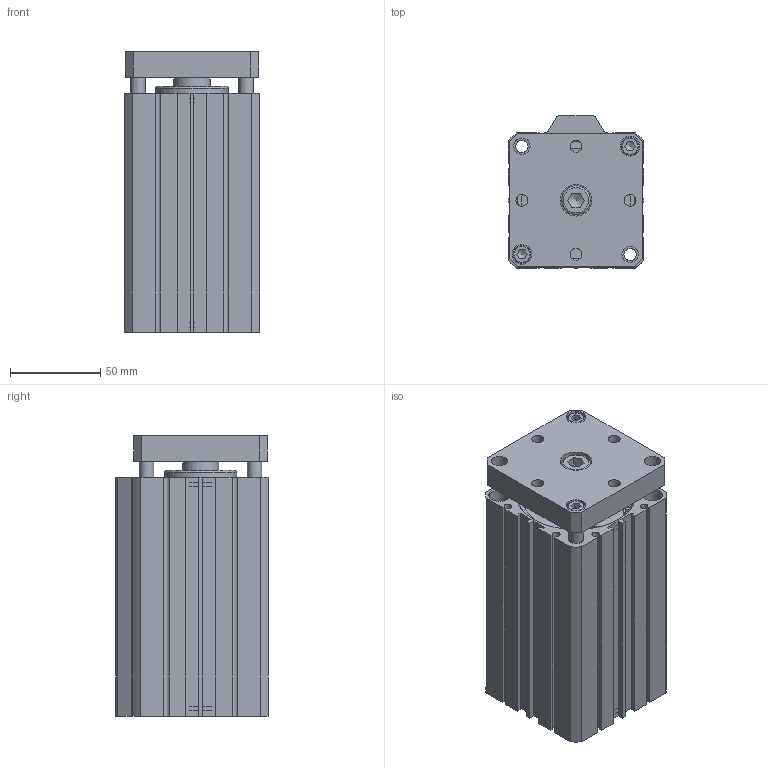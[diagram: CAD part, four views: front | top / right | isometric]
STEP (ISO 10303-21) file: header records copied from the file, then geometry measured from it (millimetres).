
FILE_DESCRIPTION((''),'2;1');
FILE_NAME('I:\3D電子目錄\氣缸\JTD\JTD\JTD63\JTD63x100.stp','2007-08-14T19:53:01',('Administrator'),(''),'Autodesk Inventor 11','Autodesk Inventor 11','');
FILE_SCHEMA(('AUTOMOTIVE_DESIGN { 1 0 10303 214 1 1 1 1 }'));
Length unit declared in the file: millimetre
Products named in the file (5): JTD63; R 形環 65; ISO 4762 M10 x 16; ISO 4762 M6 x 20
Assembly tree (6 placements, depth 2):
  JTD63
    JTD63
    R 形環 65  x2
    ISO 4762 M10 x 16
    ISO 4762 M6 x 20  x2
Bounding box: 75 x 84.5 x 155.5 mm (x, y, z)
Volume: 765021.3 mm3; surface area: 113639.1 mm2
Topology: 7 solids, 7 shells, 232 faces, 563 edges, 372 vertices
Faces by surface type: plane 136, cylinder 61, bspline 16, cone 14, torus 5
Full cylindrical faces by diameter (mm): 2.7 x4, 3 x2, 6 x2, 6.8 x2, 8 x2, 8.5 x2, 9 x2, 10 x3, 11 x4, 16 x1, 20 x1, 40 x1, 47 x1, 65 x4, 68 x2
Entity records: 6069 total; most frequent: CARTESIAN_POINT 1279, DIRECTION 964, ORIENTED_EDGE 866, EDGE_CURVE 433, AXIS2_PLACEMENT_3D 342, VERTEX_POINT 321, EDGE_LOOP 316, VECTOR 280
